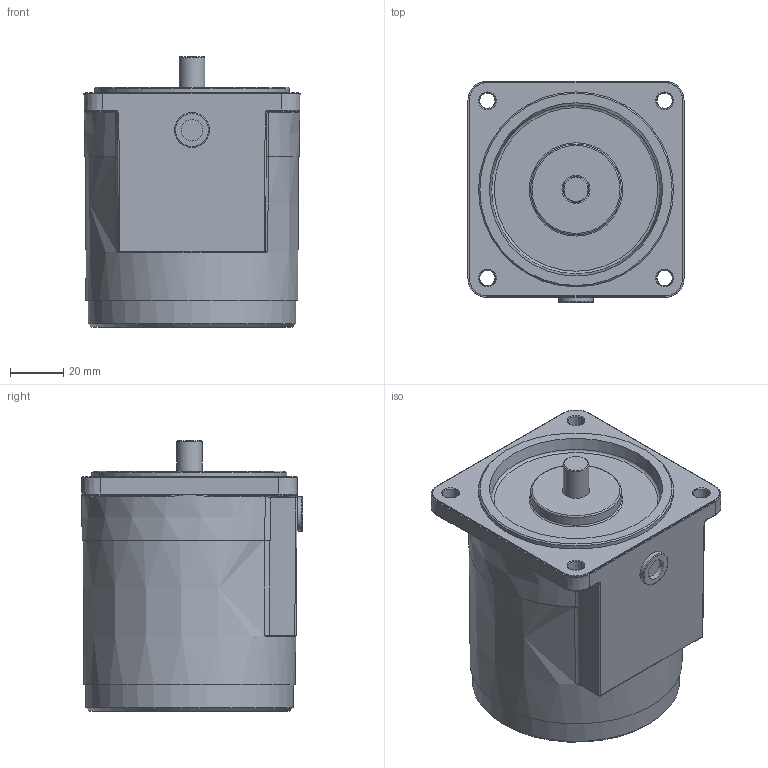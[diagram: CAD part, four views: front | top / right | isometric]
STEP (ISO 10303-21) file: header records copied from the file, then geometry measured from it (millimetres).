
FILE_DESCRIPTION (( 'STEP AP214' ), '1' );
FILE_NAME ('8IDG¤±-15W.STEP', '2025-01-13T01:47:19', ( '' ), ( '' ), 'SwSTEP 2.0', 'SolidWorks 2024', '' );
FILE_SCHEMA (( 'AUTOMOTIVE_DESIGN' ));
Length unit declared in the file: millimetre
Products named in the file (1): 8IDGㅁ-15W
Bounding box: 81 x 82.94 x 101.5 mm (x, y, z)
Volume: 453808.6 mm3; surface area: 38778.9 mm2
Topology: 1 solids, 1 shells, 168 faces, 355 edges, 208 vertices
Faces by surface type: plane 46, cone 39, torus 38, cylinder 25, bspline 18, sphere 2
Full cylindrical faces by diameter (mm): 8 x1, 9.6 x1, 10.5 x1, 13 x1, 34 x1, 73.1 x1
Entity records: 4508 total; most frequent: CARTESIAN_POINT 1265, DIRECTION 699, ORIENTED_EDGE 548, AXIS2_PLACEMENT_3D 317, EDGE_CURVE 274, EDGE_LOOP 265, FACE_OUTER_BOUND 200, VERTEX_POINT 197
